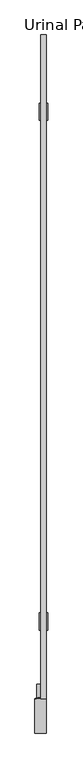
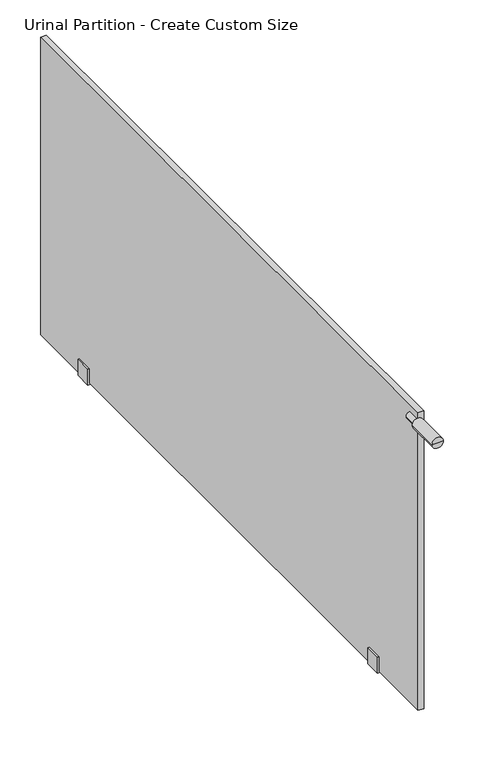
"""IFC4 building model written with IfcOpenShell, lengths in millimetres: proxy geometry, Urinal-Partition_Ironwood-Mfg : Urinal Partition - Create Custom Size."""

from ifc_helpers import new_model, si_unit, frame, origin, place, context, project, spatial, polyline, circle_curve, outline, extrude, source, transform, mapped, element, save
from ifc_brep_helpers import plane_surface, cylinder_surface, revolved_surface, advanced_brep


def urinal_partition_create_custom_size_9d5b4721(model_context):
    return source(origin(), model_context, "Body", "SolidModel", [
        advanced_brep(
        [(-6.35, 0.0, 685.8), (6.35, 0.0, 685.8), (-19.05, 0.0, 685.8), (6.35, 76.2, 685.8), (-19.05, 76.2, 685.8), (2.1166667, 78.1740358, 685.8), (-14.8166667, 78.1740358, 685.8), (2.1166667, 107.95, 685.8), (-14.8166667, 107.95, 685.8), (-6.35, 107.95, 685.8)],
        [
            (0, 1),
            (1, 2, circle_curve(frame((-6.35, 0.0, 685.8), z_axis=(0.0, -1.0, 0.0), x_axis=(-1.0, 0.0, 0.0)), 12.7)),
            (2, 0),
            (2, 1, circle_curve(frame((-6.35, 0.0, 685.8), z_axis=(0.0, -1.0, 0.0), x_axis=(-1.0, 0.0, 0.0)), 12.7)),
            (1, 3),
            (3, 4, circle_curve(frame((-6.35, 76.2, 685.8), z_axis=(0.0, -1.0, 0.0), x_axis=(-1.0, 0.0, 0.0)), 12.7)),
            (4, 2),
            (4, 3, circle_curve(frame((-6.35, 76.2, 685.8), z_axis=(0.0, -1.0, 0.0), x_axis=(-1.0, 0.0, 0.0)), 12.7)),
            (3, 5),
            (5, 6, circle_curve(frame((-6.35, 78.1740358, 685.8), z_axis=(0.0, -1.0, 0.0), x_axis=(-1.0, 0.0, 0.0)), 8.4666667)),
            (6, 4),
            (6, 5, circle_curve(frame((-6.35, 78.1740358, 685.8), z_axis=(0.0, -1.0, 0.0), x_axis=(-1.0, 0.0, 0.0)), 8.4666667)),
            (5, 7),
            (7, 8, circle_curve(frame((-6.35, 107.95, 685.8), z_axis=(0.0, -1.0, 0.0), x_axis=(-1.0, 0.0, 0.0)), 8.4666667)),
            (8, 6),
            (8, 7, circle_curve(frame((-6.35, 107.95, 685.8), z_axis=(0.0, -1.0, 0.0), x_axis=(-1.0, 0.0, 0.0)), 8.4666667)),
            (7, 9),
            (9, 8),
        ],
        [
            plane_surface(frame((-6.35, 0.0, 685.8), z_axis=(0.0, -1.0, 0.0), x_axis=(-1.0, 0.0, 0.0))),
            cylinder_surface(frame((-6.35, 107.95, 685.8), z_axis=(0.0, -1.0, 0.0), x_axis=(-1.0, 0.0, 0.0)), 12.7),
            revolved_surface(polyline([(-14.8166667, 78.1740358, 685.8), (-19.05, 76.2, 685.8)]), (-6.35, 107.95, 685.8), (0.0, -1.0, 0.0)),
            cylinder_surface(frame((-6.35, 107.95, 685.8), z_axis=(0.0, -1.0, 0.0), x_axis=(-1.0, 0.0, 0.0)), 8.4666667),
            plane_surface(frame((-6.35, 107.95, 685.8), z_axis=(0.0, 1.0, 0.0), x_axis=(-1.0, 0.0, 0.0))),
        ],
        [
            (0, [[1, 2, 3]]),
            (0, [[-3, 4, -1]]),
            (1, [[5, 6, 7, -2]]),
            (1, [[-7, 8, -5, -4]]),
            (2, [[9, 10, 11, -6]]),
            (2, [[-11, 12, -9, -8]]),
            (3, [[13, 14, 15, -10]]),
            (3, [[-15, 16, -13, -12]]),
            (4, [[17, 18, -14]]),
            (4, [[-18, -17, -16]]),
        ],
    ),
        extrude(outline(polyline([(38.1, 6.35), (3.175, 6.35), (3.175, -6.35), (38.1, -6.35), (38.1, -9.525), (0.0, -9.525), (0.0, 9.525), (38.1, 9.525), (38.1, 6.35)])), frame((0.0, 1358.9, 0.0), z_axis=(0.0, 1.0, 0.0), x_axis=(0.0, 0.0, 1.0)), (0.0, 0.0, 1.0), 38.1),
        extrude(outline(polyline([(38.1, 6.35), (3.175, 6.35), (3.175, -6.35), (38.1, -6.35), (38.1, -9.525), (0.0, -9.525), (0.0, 9.525), (38.1, 9.525), (38.1, 6.35)])), frame((0.0, 228.6, 0.0), z_axis=(0.0, 1.0, 0.0), x_axis=(0.0, 0.0, 1.0)), (0.0, 0.0, 1.0), 38.1),
        extrude(outline(polyline([(-6.35, 76.2), (-6.35, 1548.5614427), (6.35, 1548.5614427), (6.35, 76.2), (-6.35, 76.2)])), frame((0.0, 0.0, 3.175), z_axis=(0.0, 0.0, 1.0), x_axis=(1.0, 0.0, 0.0)), (0.0, 0.0, 1.0), 708.025),
    ])


if __name__ == "__main__":
    model = new_model("IFC4")
    model_context = context("Model", 3, world=origin())
    ifc_project = project(units=[si_unit("LENGTHUNIT", "METRE", prefix="MILLI")], contexts=[model_context])
    site = spatial("IfcSite", under=ifc_project)
    building = spatial("IfcBuilding", under=site)
    placement = place(None, origin())
    urinal_partition_create_custom_size_shape = urinal_partition_create_custom_size_9d5b4721(model_context)
    element("IfcBuildingElementProxy", 1, Name="Urinal-Partition_Ironwood-Mfg : Urinal Partition - Create Custom Size", ObjectType="Urinal-Partition_Ironwood-Mfg : Urinal Partition - Create Custom Size", at=placement, inside=building, context=model_context, shape_type="MappedRepresentation", body=[
        mapped(urinal_partition_create_custom_size_shape, transform((0.0, 0.0, 0.0), x_axis=(1.0, 0.0, 0.0), y_axis=(0.0, 1.0, 0.0), z_axis=(0.0, 0.0, 1.0))),
    ])
    save(model, "model.ifc")
